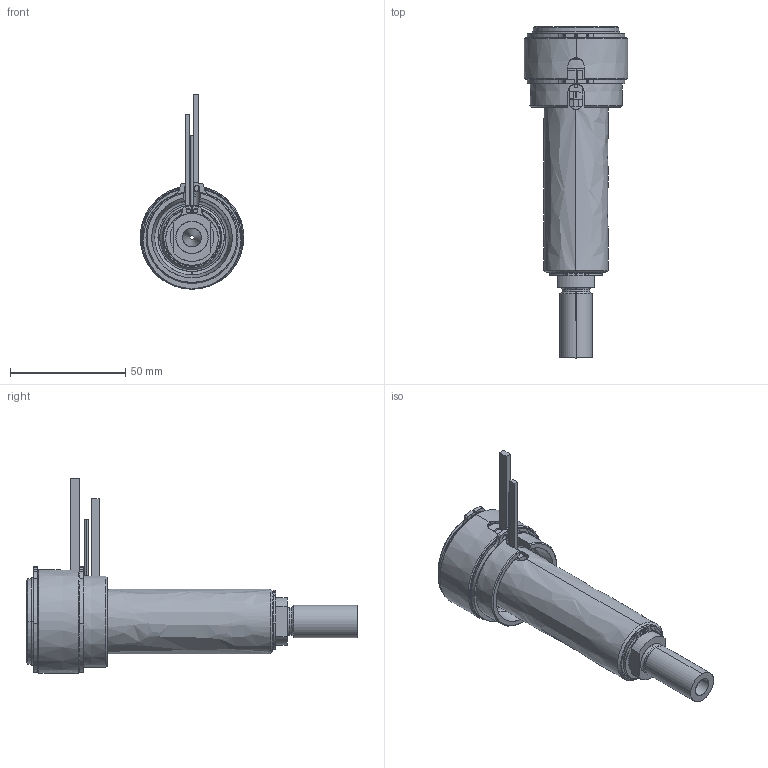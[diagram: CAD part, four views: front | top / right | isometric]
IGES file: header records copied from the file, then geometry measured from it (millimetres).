
Start section: SolidWorks IGES file using analytic representation for surfaces
Global section: file name: C:\Documents and Settings\ws-20\Desktop\TEM\UGBE4502-M-A-P-5 [Ød-2.0 P-25 ØC-09].IGS; native system: SolidWorks 2012; preprocessor: SolidWorks 2012; author: ws-20; date: 120412.153011; units: millimetre
Bounding box: 45 x 144.25 x 84.5 mm (x, y, z)
Surface area: 47507.6 mm2 (no closed solid volume)
Topology: 0 solids, 0 shells, 164 faces, 3069 edges, 3069 vertices
Faces by surface type: revolution 99, bspline 65
